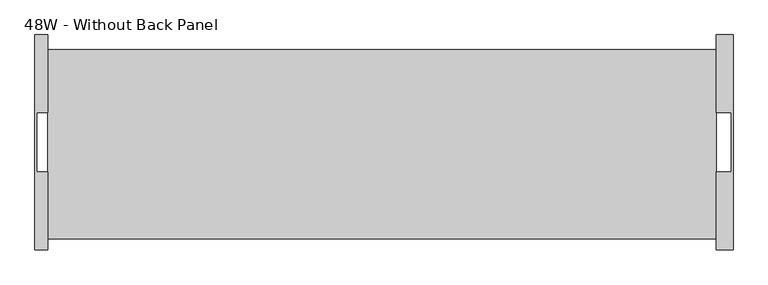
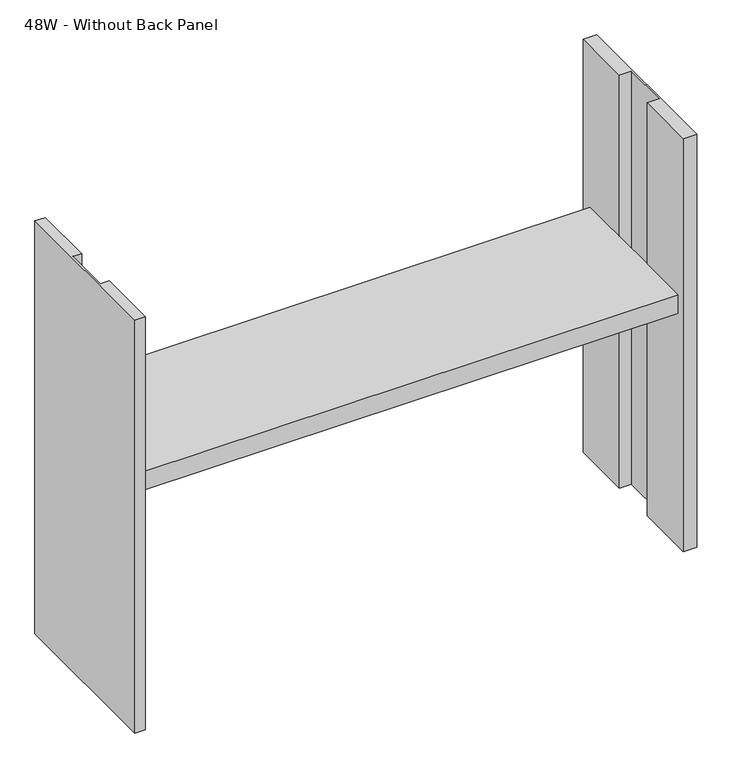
"""IFC4 building model written with IfcOpenShell, lengths in millimetres: furniture geometry, Steelcase - Kick Freestanding - Overhead Storage Cabinet With Shelves : 48W - Without Back Panel."""

from ifc_helpers import new_model, si_unit, frame, origin, place, context, project, spatial, polyline, outline, extrude, source, transform, mapped, element, save


def furniture_48w_without_back_panel_ed2529b7(model_context):
    return source(origin(), model_context, "Body", "SweptSolid", [
        extrude(outline(polyline([(1177.7138992, -53.9750008), (1177.7138992, -377.8257956), (34.7138992, -377.8257956), (34.7138992, -53.9750008), (1177.7138992, -53.9750008)])), frame((0.0, 0.0, 1018.9431215), z_axis=(0.0, 0.0, 1.0), x_axis=(1.0, 0.0, 0.0)), (0.0, 0.0, 1.0), 41.2749516),
        extrude(outline(polyline([(1177.7138992, -28.575), (1206.5, -28.575), (1206.5, -396.875), (1177.7138992, -396.875), (1177.7138992, -263.5265924), (1203.323793, -263.5265924), (1203.323793, -161.9265984), (1177.7138992, -161.9265984), (1177.7138992, -28.575)])), frame((0.0, 0.0, 495.068073), z_axis=(0.0, 0.0, 1.0), x_axis=(1.0, 0.0, 0.0)), (0.0, 0.0, 1.0), 927.1),
        extrude(outline(polyline([(34.7138992, -28.575), (34.7138992, -161.9250023), (15.8750004, -161.9250023), (15.8750004, -263.5249962), (34.7138992, -263.5249962), (34.7138992, -396.875), (12.7, -396.875), (12.7, -28.575), (34.7138992, -28.575)])), frame((0.0, 0.0, 495.068073), z_axis=(0.0, 0.0, 1.0), x_axis=(1.0, 0.0, 0.0)), (0.0, 0.0, 1.0), 927.1),
    ])


if __name__ == "__main__":
    model = new_model("IFC4")
    model_context = context("Model", 3, world=origin())
    ifc_project = project(units=[si_unit("LENGTHUNIT", "METRE", prefix="MILLI")], contexts=[model_context])
    site = spatial("IfcSite", under=ifc_project)
    building = spatial("IfcBuilding", under=site)
    placement = place(None, origin())
    furniture_48w_without_back_panel_shape = furniture_48w_without_back_panel_ed2529b7(model_context)
    element("IfcFurniture", 1, ObjectType="Steelcase - Kick Freestanding - Overhead Storage Cabinet With Shelves : 48W - Without Back Panel", at=placement, inside=building, context=model_context, shape_type="MappedRepresentation", body=[
        mapped(furniture_48w_without_back_panel_shape, transform((0.0, 0.0, 0.0), x_axis=(1.0, 0.0, 0.0), y_axis=(0.0, 1.0, 0.0), z_axis=(0.0, 0.0, 1.0))),
    ])
    save(model, "model.ifc")
